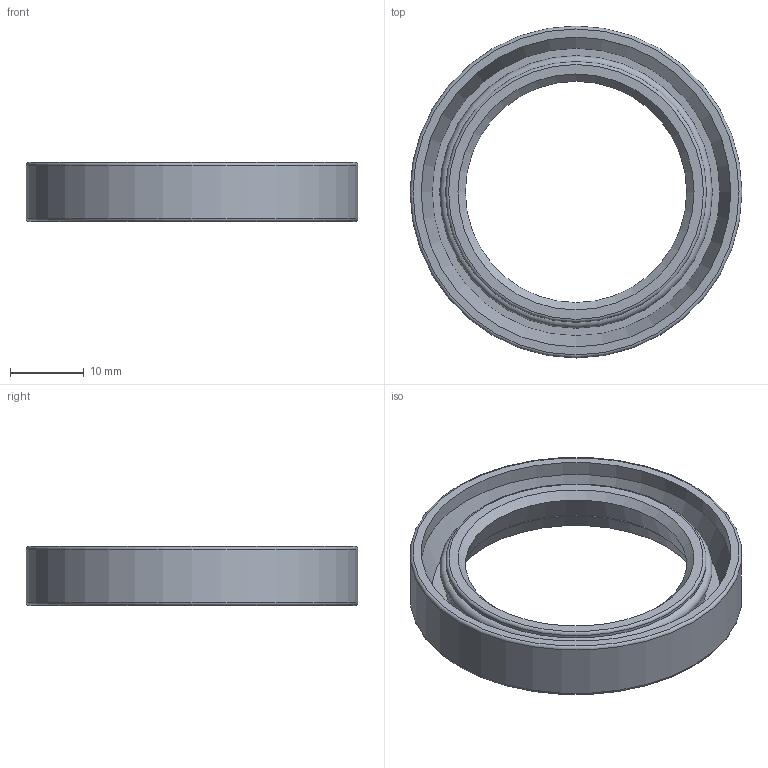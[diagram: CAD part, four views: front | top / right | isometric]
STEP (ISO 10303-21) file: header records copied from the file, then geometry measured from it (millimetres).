
FILE_DESCRIPTION(/* description */ (''),/* implementation_level */ '2;1');
FILE_NAME(/* name */ '',/* time_stamp */ '2026-07-01T11:14:11+09:00',/* author */ ('jhkim'),/* organization */ (''),/* preprocessor_version */ 'ST-DEVELOPER v20.1',/* originating_system */ 'Autodesk Inventor 2027',/* authorisation */ '');
FILE_SCHEMA (('AUTOMOTIVE_DESIGN { 1 0 10303 214 3 1 1 }'));
Length unit declared in the file: millimetre
Products named in the file (1): 오일 실 30 45 8
Bounding box: 45 x 45 x 8 mm (x, y, z)
Volume: 4081.8 mm3; surface area: 4568 mm2
Topology: 1 solids, 1 shells, 18 faces, 32 edges, 18 vertices
Faces by surface type: torus 5, cone 5, plane 4, cylinder 4
Full cylindrical faces by diameter (mm): 35.353 x2, 42 x1, 45 x1
Entity records: 486 total; most frequent: DIRECTION 93, CARTESIAN_POINT 69, ORIENTED_EDGE 64, AXIS2_PLACEMENT_3D 42, EDGE_CURVE 32, CIRCLE 23, EDGE_LOOP 22, FACE_OUTER_BOUND 18
